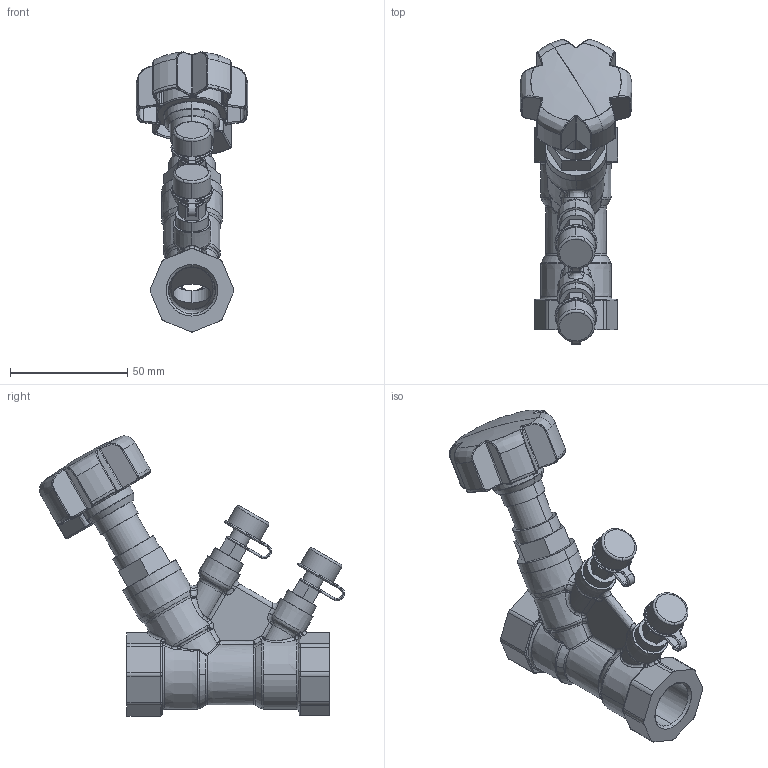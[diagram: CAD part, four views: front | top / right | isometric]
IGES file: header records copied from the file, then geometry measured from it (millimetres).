
Start section: SolidWorks IGES file using analytic representation for surfaces
Global section: file name: C:\Users\Administrator\Desktop\temp\0.IGS; native system: SolidWorks 2015; preprocessor: SolidWorks 2015; author: Administrator; date: 170404.133101; units: millimetre
Bounding box: 47.74 x 130.2 x 119.6 mm (x, y, z)
Surface area: 40629.9 mm2 (no closed solid volume)
Topology: 0 solids, 0 shells, 773 faces, 6832 edges, 6795 vertices
Faces by surface type: bspline 502, revolution 271
